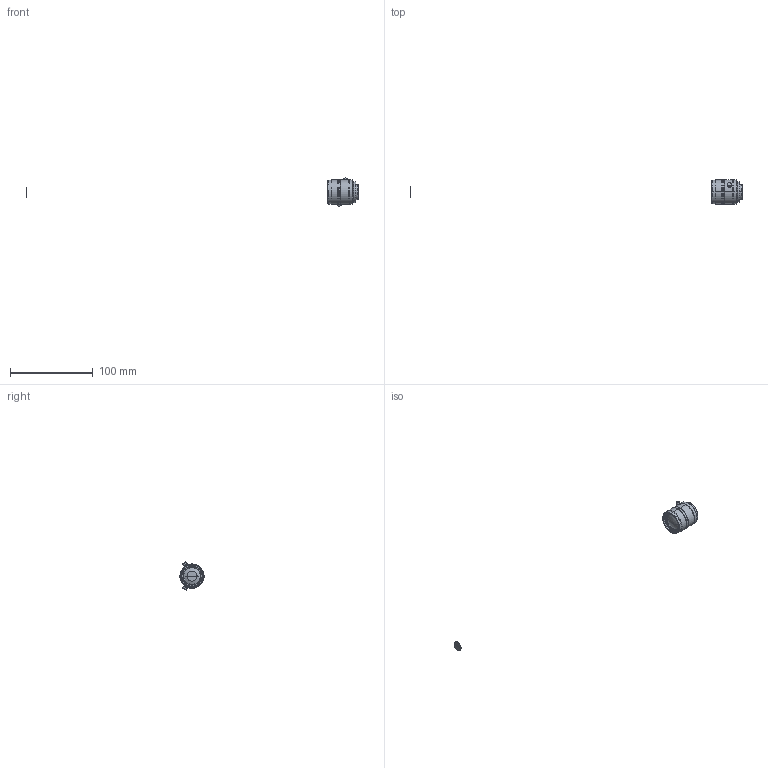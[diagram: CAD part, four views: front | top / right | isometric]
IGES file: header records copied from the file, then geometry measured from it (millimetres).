
Start section: SolidWorks IGES file using analytic representation for surfaces
Global section: file name: \\192.168.1.203\Development\06 俠俠俿倁儗儞僘\01 SV-V series\006 SV-0614V\3D\SV-0614V.IGS; native system: SolidWorks 2012; preprocessor: SolidWorks 2012; author: a-3DCAD2; date: 120601.153915; units: millimetre
Bounding box: 402.3 x 29.5 x 34 mm (x, y, z)
Surface area: 6274 mm2 (no closed solid volume)
Topology: 0 solids, 0 shells, 116 faces, 1970 edges, 1968 vertices
Faces by surface type: revolution 98, bspline 18
